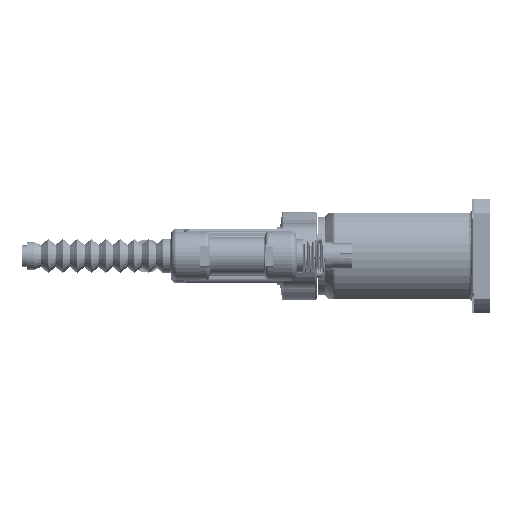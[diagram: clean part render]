
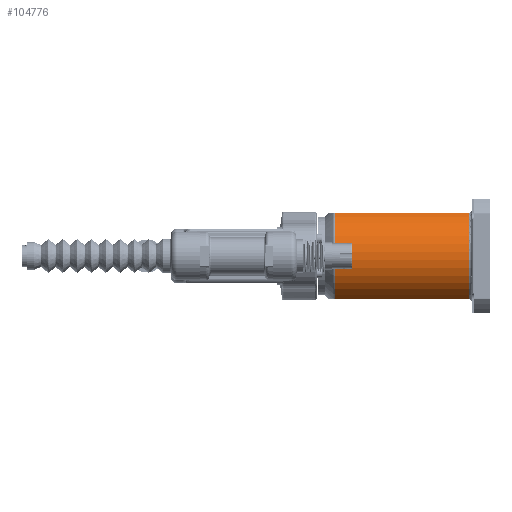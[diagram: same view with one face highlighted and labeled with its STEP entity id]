
A CAD part, left-side view. The second image highlights one B-rep face of the part: STEP entity #104776.
In plain terms, the highlighted cylindrical face has radius 67.5 mm (diameter 135 mm), a partial arc.
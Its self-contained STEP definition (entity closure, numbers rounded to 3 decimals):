
#438 = ORIENTED_EDGE ( 'NONE', *, *, #82702, .T. ) ;
#497 = AXIS2_PLACEMENT_3D ( 'NONE', #4849, #46002, #144090 ) ;
#916 = VERTEX_POINT ( 'NONE', #103372 ) ;
#2355 = CYLINDRICAL_SURFACE ( 'NONE', #117421, 67.5 ) ;
#4849 = CARTESIAN_POINT ( 'NONE',  ( 0., 30., 0. ) ) ;
#11006 = FACE_OUTER_BOUND ( 'NONE', #150959, .T. ) ;
#11232 = ORIENTED_EDGE ( 'NONE', *, *, #86377, .T. ) ;
#19478 = CARTESIAN_POINT ( 'NONE',  ( -31.108, 230., -59.904 ) ) ;
#20071 = DIRECTION ( 'NONE',  ( 0., -1., 0. ) ) ;
#27344 = VECTOR ( 'NONE', #20071, 1000. ) ;
#29382 = CARTESIAN_POINT ( 'NONE',  ( 0., 215.929, 0. ) ) ;
#32099 = CARTESIAN_POINT ( 'NONE',  ( 0., 230., 0. ) ) ;
#33037 = CIRCLE ( 'NONE', #106638, 67.5 ) ;
#42315 = ORIENTED_EDGE ( 'NONE', *, *, #86384, .T. ) ;
#46002 = DIRECTION ( 'NONE',  ( 0., 1., 0. ) ) ;
#53357 = EDGE_CURVE ( 'NONE', #144307, #119697, #33037, .T. ) ;
#68487 = LINE ( 'NONE', #19478, #27344 ) ;
#82702 = EDGE_CURVE ( 'NONE', #916, #149912, #96408, .T. ) ;
#83636 = LINE ( 'NONE', #88514, #111818 ) ;
#86377 = EDGE_CURVE ( 'NONE', #119697, #916, #68487, .T. ) ;
#86384 = EDGE_CURVE ( 'NONE', #149912, #144307, #83636, .T. ) ;
#88398 = DIRECTION ( 'NONE',  ( -1., 0., 0. ) ) ;
#88514 = CARTESIAN_POINT ( 'NONE',  ( -31.108, 230., 59.904 ) ) ;
#95797 = CARTESIAN_POINT ( 'NONE',  ( -31.108, 30., 59.904 ) ) ;
#96408 = CIRCLE ( 'NONE', #497, 67.5 ) ;
#102991 = DIRECTION ( 'NONE',  ( 0., 1., 0. ) ) ;
#103372 = CARTESIAN_POINT ( 'NONE',  ( -31.108, 30., -59.904 ) ) ;
#104776 = ADVANCED_FACE ( 'NONE', ( #11006 ), #2355, .T. ) ;
#106638 = AXIS2_PLACEMENT_3D ( 'NONE', #29382, #126260, #110576 ) ;
#110576 = DIRECTION ( 'NONE',  ( -1., 0., 0. ) ) ;
#111818 = VECTOR ( 'NONE', #156368, 1000. ) ;
#117421 = AXIS2_PLACEMENT_3D ( 'NONE', #32099, #102991, #88398 ) ;
#119697 = VERTEX_POINT ( 'NONE', #124994 ) ;
#124994 = CARTESIAN_POINT ( 'NONE',  ( -31.108, 215.929, -59.904 ) ) ;
#126260 = DIRECTION ( 'NONE',  ( 0., -1., 0. ) ) ;
#126632 = CARTESIAN_POINT ( 'NONE',  ( -31.108, 215.929, 59.904 ) ) ;
#144090 = DIRECTION ( 'NONE',  ( 1., 0., 0. ) ) ;
#144307 = VERTEX_POINT ( 'NONE', #126632 ) ;
#149912 = VERTEX_POINT ( 'NONE', #95797 ) ;
#150959 = EDGE_LOOP ( 'NONE', ( #166205, #11232, #438, #42315 ) ) ;
#156368 = DIRECTION ( 'NONE',  ( 0., 1., 0. ) ) ;
#166205 = ORIENTED_EDGE ( 'NONE', *, *, #53357, .T. ) ;
